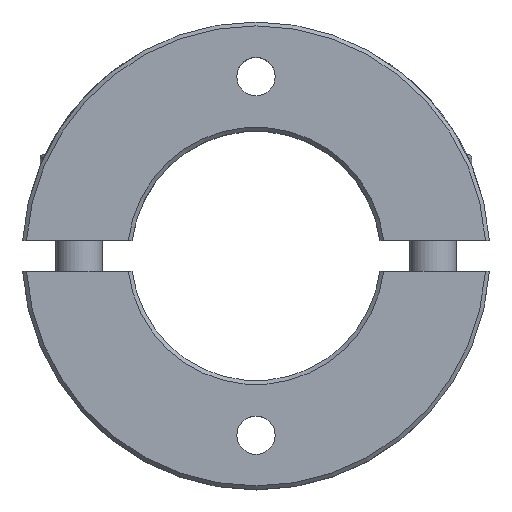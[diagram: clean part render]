
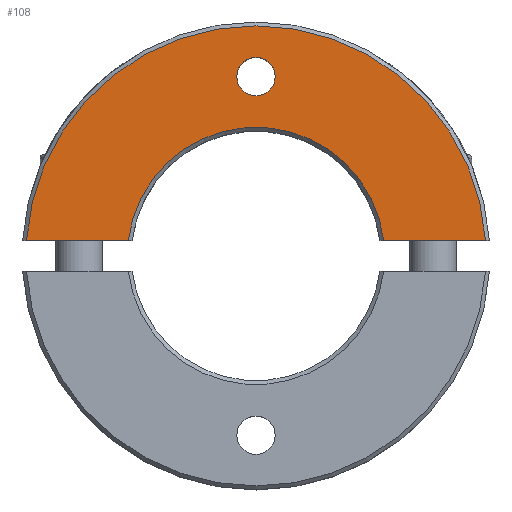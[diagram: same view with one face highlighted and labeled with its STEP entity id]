
A CAD part, top view. The second image highlights one B-rep face of the part: STEP entity #108.
In plain terms, the highlighted planar face has unit normal (0, 0, 1).
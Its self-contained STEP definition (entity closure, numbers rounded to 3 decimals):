
#108 = ADVANCED_FACE( '', ( #212, #213 ), #214, .T. );
#212 = FACE_OUTER_BOUND( '', #344, .T. );
#213 = FACE_BOUND( '', #345, .T. );
#214 = PLANE( '', #346 );
#344 = EDGE_LOOP( '', ( #630, #631, #632, #633 ) );
#345 = EDGE_LOOP( '', ( #634 ) );
#346 = AXIS2_PLACEMENT_3D( '', #635, #636, #637 );
#630 = ORIENTED_EDGE( '', *, *, #839, .F. );
#631 = ORIENTED_EDGE( '', *, *, #832, .T. );
#632 = ORIENTED_EDGE( '', *, *, #776, .F. );
#633 = ORIENTED_EDGE( '', *, *, #781, .F. );
#634 = ORIENTED_EDGE( '', *, *, #810, .T. );
#635 = CARTESIAN_POINT( '', ( 0., 16.5, 7.5 ) );
#636 = DIRECTION( '', ( 0., 0., 1. ) );
#637 = DIRECTION( '', ( 1., 0., 0. ) );
#776 = EDGE_CURVE( '', #896, #898, #899, .T. );
#781 = EDGE_CURVE( '', #907, #896, #908, .T. );
#810 = EDGE_CURVE( '', #958, #958, #959, .F. );
#832 = EDGE_CURVE( '', #996, #898, #997, .T. );
#839 = EDGE_CURVE( '', #996, #907, #1004, .T. );
#896 = VERTEX_POINT( '', #1103 );
#898 = VERTEX_POINT( '', #1108 );
#899 = LINE( '', #1109, #1110 );
#907 = VERTEX_POINT( '', #1126 );
#908 = CIRCLE( '', #1127, 16.5 );
#958 = VERTEX_POINT( '', #1280 );
#959 = CIRCLE( '', #1281, 2.459 );
#996 = VERTEX_POINT( '', #1420 );
#997 = CIRCLE( '', #1421, 29.5 );
#1004 = LINE( '', #1431, #1432 );
#1103 = CARTESIAN_POINT( '', ( -16.378, 2., 7.5 ) );
#1108 = CARTESIAN_POINT( '', ( -29.432, 2., 7.5 ) );
#1109 = CARTESIAN_POINT( '', ( 0., 2., 7.5 ) );
#1110 = VECTOR( '', #1514, 1000. );
#1126 = CARTESIAN_POINT( '', ( 16.378, 2., 7.5 ) );
#1127 = AXIS2_PLACEMENT_3D( '', #1517, #1518, #1519 );
#1280 = CARTESIAN_POINT( '', ( 2.459, 23., 7.5 ) );
#1281 = AXIS2_PLACEMENT_3D( '', #1562, #1563, #1564 );
#1420 = CARTESIAN_POINT( '', ( 29.432, 2., 7.5 ) );
#1421 = AXIS2_PLACEMENT_3D( '', #1598, #1599, #1600 );
#1431 = CARTESIAN_POINT( '', ( 32., 2., 7.5 ) );
#1432 = VECTOR( '', #1616, 1000. );
#1514 = DIRECTION( '', ( -1., 0., 0. ) );
#1517 = CARTESIAN_POINT( '', ( 0., 0., 7.5 ) );
#1518 = DIRECTION( '', ( 0., 0., 1. ) );
#1519 = DIRECTION( '', ( 1., 0., 0. ) );
#1562 = CARTESIAN_POINT( '', ( 0., 23., 7.5 ) );
#1563 = DIRECTION( '', ( 0., 0., 1. ) );
#1564 = DIRECTION( '', ( 1., 0., 0. ) );
#1598 = CARTESIAN_POINT( '', ( 0., 0., 7.5 ) );
#1599 = DIRECTION( '', ( 0., 0., 1. ) );
#1600 = DIRECTION( '', ( 1., 0., 0. ) );
#1616 = DIRECTION( '', ( -1., 0., 0. ) );
